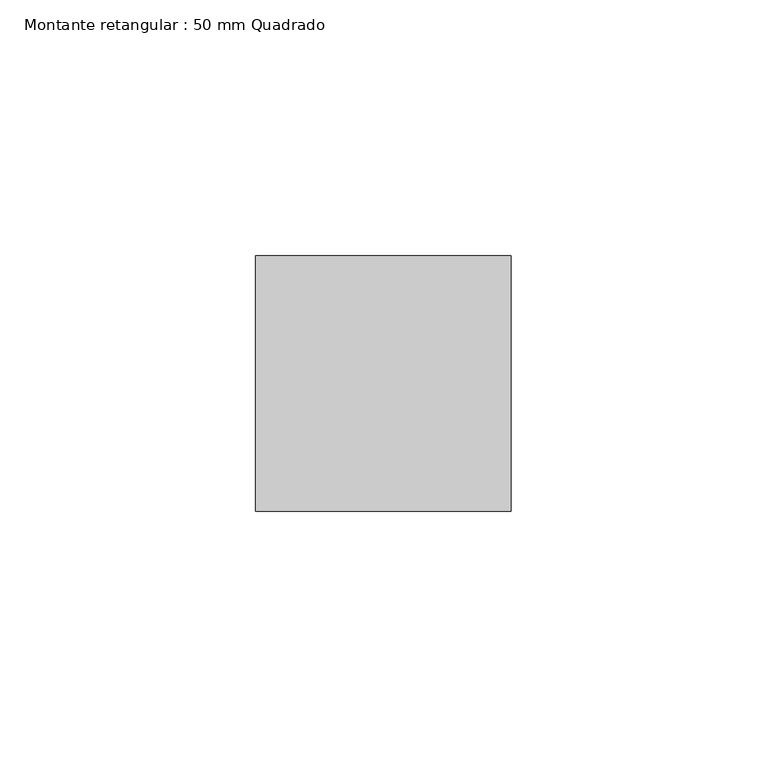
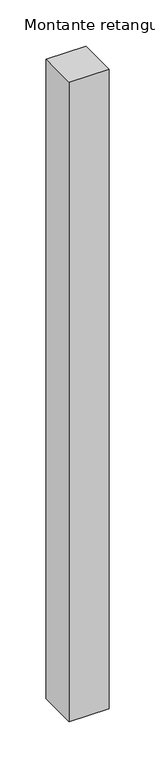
"""IFC4 building model written with IfcOpenShell, lengths in millimetres: member geometry, Montante retangular : 50 mm Quadrado."""

from ifc_helpers import new_model, si_unit, frame, origin, place, context, project, spatial, polyline, outline, extrude, source, transform, mapped, element, save


def montante_retangular_50_mm_quadrado_237d7072(model_context):
    return source(origin(), model_context, "Body", "SweptSolid", [
        extrude(outline(polyline([(0.0, 25.0), (0.0, -25.0), (-50.0, -25.0), (-50.0, 25.0), (0.0, 25.0)])), frame((0.0, 0.0, -845.0), z_axis=(0.0, 0.0, 1.0), x_axis=(1.0, 0.0, 0.0)), (0.0, 0.0, 1.0), 845.0),
    ])


if __name__ == "__main__":
    model = new_model("IFC4")
    model_context = context("Model", 3, world=origin())
    ifc_project = project(units=[si_unit("LENGTHUNIT", "METRE", prefix="MILLI")], contexts=[model_context])
    site = spatial("IfcSite", under=ifc_project)
    building = spatial("IfcBuilding", under=site)
    placement = place(None, origin())
    montante_retangular_50_mm_quadrado_shape = montante_retangular_50_mm_quadrado_237d7072(model_context)
    element("IfcMember", 1, ObjectType="Montante retangular : 50 mm Quadrado", at=placement, inside=building, context=model_context, shape_type="MappedRepresentation", body=[
        mapped(montante_retangular_50_mm_quadrado_shape, transform((0.0, 0.0, 0.0), x_axis=(1.0, 0.0, 0.0), y_axis=(0.0, 1.0, 0.0), z_axis=(0.0, 0.0, 1.0))),
    ])
    save(model, "model.ifc")
